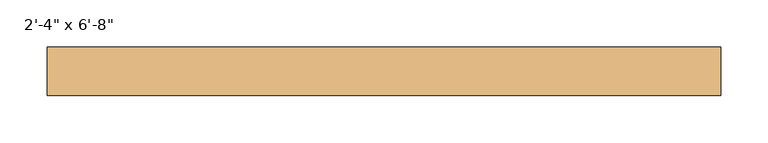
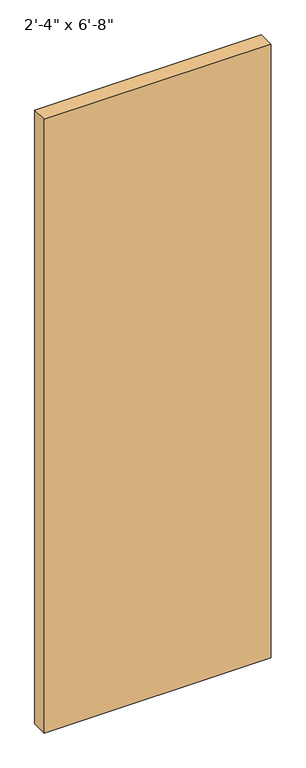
"""IFC4 building model written with IfcOpenShell, lengths in millimetres: door geometry."""

import ifcopenshell
import ifcopenshell.guid

model = None  # the IFC model being written
_history = None  # IfcOwnerHistory: only IFC2X3 demands one
_inside = {}  # id of a spatial element -> (the spatial element, [elements in it])
_under = {}  # id of a project, library or spatial element -> (it, [spatial elements below it])
_declared = {}  # id of a project -> (the project, [libraries it declares])
_typed = {}  # id of a type object -> (the type object, [elements of that type])
_made_of = {}  # id of a material, layer set ... -> (it, [elements and type objects made of it])


def new_model(schema):
    """Start an empty IFC model of exactly this schema.

    Asked for "IFC4X3", IfcOpenShell would pick the latest addendum, in which some entities
    have other attributes; the version numbers below select the first issue.
    IFC2X3 requires an IfcOwnerHistory on every rooted entity: one is made here for all.
    """
    global model, _history
    if schema == "IFC4X3":
        model = ifcopenshell.file(schema_version=(4, 3, 0, 0))
    else:
        model = ifcopenshell.file(schema=schema)
    _inside.clear()
    _under.clear()
    _declared.clear()
    _typed.clear()
    _made_of.clear()
    _history = None
    if model.schema == "IFC2X3":
        org = make("IfcOrganization", Name="unknown")
        user = make(
            "IfcPersonAndOrganization",
            ThePerson=make("IfcPerson", FamilyName="unknown"),
            TheOrganization=org,
        )
        app = make(
            "IfcApplication",
            ApplicationDeveloper=org,
            Version="unknown",
            ApplicationFullName="unknown",
            ApplicationIdentifier="unknown",
        )
        _history = make(
            "IfcOwnerHistory",
            OwningUser=user,
            OwningApplication=app,
            ChangeAction="ADDED",
            CreationDate=0,
        )
    return model


def make(cls, **values):
    """One entity of the class cls with the attributes given. An attribute that is None is left unset."""
    return model.create_entity(
        cls, **{name: value for name, value in values.items() if value is not None}
    )


def rooted(cls, **values):
    """An entity with a GlobalId (a new one), such as an element, a storey or a relation."""
    return make(cls, GlobalId=ifcopenshell.guid.new(), OwnerHistory=_history, **values)


def si_unit(unit_type, name, prefix=None):
    """IfcSIUnit, for example si_unit("LENGTHUNIT", "METRE", prefix="MILLI")."""
    return make("IfcSIUnit", UnitType=unit_type, Prefix=prefix, Name=name)


def assignment(units):
    """IfcUnitAssignment: the units of a project."""
    return None if units is None else make("IfcUnitAssignment", Units=units)


def point(xyz):
    """IfcCartesianPoint."""
    return None if xyz is None else make("IfcCartesianPoint", Coordinates=xyz)


def direction(xyz):
    """IfcDirection."""
    return None if xyz is None else make("IfcDirection", DirectionRatios=xyz)


def frame(location, z_axis=None, x_axis=None):
    """IfcAxis2Placement3D, a coordinate frame: its origin and axes. An axis left out is left unset."""
    return make(
        "IfcAxis2Placement3D",
        Location=point(location),
        Axis=direction(z_axis),
        RefDirection=direction(x_axis),
    )


def origin():
    """The frame at (0, 0, 0) with its axes left unset."""
    return frame((0.0, 0.0, 0.0))


def origin_with_axes():
    """The frame at (0, 0, 0) with the z axis (0, 0, 1) and the x axis (1, 0, 0) written out."""
    return frame((0.0, 0.0, 0.0), z_axis=(0.0, 0.0, 1.0), x_axis=(1.0, 0.0, 0.0))


def place(relative_to, where):
    """IfcLocalPlacement: puts the frame where relative to a parent placement (None: the world)."""
    return make(
        "IfcLocalPlacement", PlacementRelTo=relative_to, RelativePlacement=where
    )


def context(
    kind, dimensions, precision=None, world=None, true_north=None, identifier=None
):
    """IfcGeometricRepresentationContext, for example the 3D "Model" context."""
    return make(
        "IfcGeometricRepresentationContext",
        ContextIdentifier=identifier,
        ContextType=kind,
        CoordinateSpaceDimension=dimensions,
        Precision=precision,
        WorldCoordinateSystem=world,
        TrueNorth=true_north,
    )


def project(units=None, contexts=None):
    """IfcProject with its units and contexts."""
    return rooted(
        "IfcProject",
        Name="project",
        RepresentationContexts=contexts,
        UnitsInContext=assignment(units),
    )


def spatial(cls, under=None, at=None, **own):
    """A site, building, storey or space (cls), placed at a placement, below another one or the project."""
    s = rooted(cls, ObjectPlacement=at, **own)
    if under is not None:
        _under.setdefault(under.id(), (under, []))[1].append(s)
    return s


def polyline(points):
    """IfcPolyline through the points."""
    return make("IfcPolyline", Points=[point(p) for p in points])


def outline(outer, holes=None, kind="AREA"):
    """IfcArbitraryClosedProfileDef: a profile drawn as a closed curve; with holes, ...WithVoids."""
    if holes is None:
        return make("IfcArbitraryClosedProfileDef", ProfileType=kind, OuterCurve=outer)
    return make(
        "IfcArbitraryProfileDefWithVoids",
        ProfileType=kind,
        OuterCurve=outer,
        InnerCurves=holes,
    )


def extrude(swept, where, along, depth):
    """IfcExtrudedAreaSolid: the profile swept, set in the frame where, extruded along a direction by depth."""
    return make(
        "IfcExtrudedAreaSolid",
        SweptArea=swept,
        Position=where,
        ExtrudedDirection=direction(along),
        Depth=depth,
    )


def shape(context_of_items, identifier, shape_type, items):
    """IfcShapeRepresentation: the items that make up one representation, for example the "Body"."""
    return make(
        "IfcShapeRepresentation",
        ContextOfItems=context_of_items,
        RepresentationIdentifier=identifier,
        RepresentationType=shape_type,
        Items=items,
    )


def source(mapping_origin, context_of_items, identifier, shape_type, items):
    """IfcRepresentationMap: a shape defined once, which mapped items show again and again."""
    return make(
        "IfcRepresentationMap",
        MappingOrigin=mapping_origin,
        MappedRepresentation=shape(context_of_items, identifier, shape_type, items),
    )


def transform(
    local_origin,
    x_axis=None,
    y_axis=None,
    z_axis=None,
    scale=None,
    scale2=None,
    scale3=None,
    uniform=True,
):
    """IfcCartesianTransformationOperator3D, or its non-uniform kind. x_axis, y_axis, z_axis: its Axis1, 2, 3."""
    if uniform:
        return make(
            "IfcCartesianTransformationOperator3D",
            Axis1=direction(x_axis),
            Axis2=direction(y_axis),
            LocalOrigin=point(local_origin),
            Scale=scale,
            Axis3=direction(z_axis),
        )
    return make(
        "IfcCartesianTransformationOperator3DnonUniform",
        Axis1=direction(x_axis),
        Axis2=direction(y_axis),
        LocalOrigin=point(local_origin),
        Scale=scale,
        Axis3=direction(z_axis),
        Scale2=scale2,
        Scale3=scale3,
    )


def mapped(mapping_source, mapping_target):
    """IfcMappedItem: shows the shape of a source again, moved by a transform."""
    return make(
        "IfcMappedItem", MappingSource=mapping_source, MappingTarget=mapping_target
    )


def made_of(thing, what):
    """Note that an element or type object is made of a material, layer set ...; save() writes the relation."""
    if what is not None:
        _made_of.setdefault(what.id(), (what, []))[1].append(thing)
    return thing


def element(
    cls,
    number,
    at=None,
    inside=None,
    cuts=None,
    type_object=None,
    material=None,
    context=None,
    identifier="Body",
    shape_type=None,
    held_by="IfcProductDefinitionShape",
    body=None,
    shapes=None,
    **own,
):
    """One element of the class cls, such as IfcWall. Its Tag is "e" and its number.

    at: its placement. inside: the storey or other place that contains it. cuts: it is an
    opening in that element (IfcRelVoidsElement). A single representation is given by context,
    identifier, shape_type and body (its items); several are given by shapes. held_by: the class
    of the entity that holds the representations. save() writes the other relations.
    """
    e = rooted(cls, Tag="e%d" % number, ObjectPlacement=at, **own)
    if body is not None:
        shapes = [shape(context, identifier, shape_type, body)]
    if shapes is not None:
        e.Representation = make(held_by, Representations=shapes)
    if inside is not None:
        _inside.setdefault(inside.id(), (inside, []))[1].append(e)
    if cuts is not None:
        rooted(
            "IfcRelVoidsElement", RelatingBuildingElement=cuts, RelatedOpeningElement=e
        )
    if type_object is not None:
        _typed.setdefault(type_object.id(), (type_object, []))[1].append(e)
    return made_of(e, material)


def aggregate(whole, parts):
    """IfcRelAggregates: a whole, such as a stair, and the parts it consists of."""
    return rooted("IfcRelAggregates", RelatingObject=whole, RelatedObjects=parts)


def save(model, path):
    """Write the relations noted so far, then the file.

    IfcRelAggregates (storeys below a building ...), IfcRelContainedInSpatialStructure (elements
    in a storey), IfcRelDefinesByType, IfcRelAssociatesMaterial and IfcRelDeclares: one each for
    every whole, place, type object, material and project.
    """
    for whole, parts in _under.values():
        aggregate(whole, parts)
    for where, things in _inside.values():
        rooted(
            "IfcRelContainedInSpatialStructure",
            RelatedElements=things,
            RelatingStructure=where,
        )
    for kind, things in _typed.values():
        rooted("IfcRelDefinesByType", RelatedObjects=things, RelatingType=kind)
    for what, things in _made_of.values():
        rooted("IfcRelAssociatesMaterial", RelatedObjects=things, RelatingMaterial=what)
    for by, libraries in _declared.values():
        rooted("IfcRelDeclares", RelatingContext=by, RelatedDefinitions=libraries)
    model.write(path)


def door_614be32d(model_context):
    return source(origin(), model_context, "Body", "SweptSolid", [
        extrude(outline(polyline([(355.6, -25.2015625), (355.6, -76.2), (-355.6, -76.2), (-355.6, -25.2015625), (355.6, -25.2015625)])), origin_with_axes(), (0.0, 0.0, 1.0), 2032.0),
    ])


if __name__ == "__main__":
    model = new_model("IFC4")
    model_context = context("Model", 3, world=origin())
    ifc_project = project(units=[si_unit("LENGTHUNIT", "METRE", prefix="MILLI")], contexts=[model_context])
    site = spatial("IfcSite", under=ifc_project)
    building = spatial("IfcBuilding", under=site)
    placement = place(None, origin())
    door_shape = door_614be32d(model_context)
    element("IfcDoor", 1, ObjectType="Planitar - Single Door_Flush Panel : 2'-4\" x 6'-8\"", at=placement, inside=building, context=model_context, shape_type="MappedRepresentation", body=[
        mapped(door_shape, transform((0.0, 0.0, 0.0), x_axis=(1.0, 0.0, 0.0), y_axis=(0.0, 1.0, 0.0), z_axis=(0.0, 0.0, 1.0))),
    ])
    save(model, "model.ifc")
